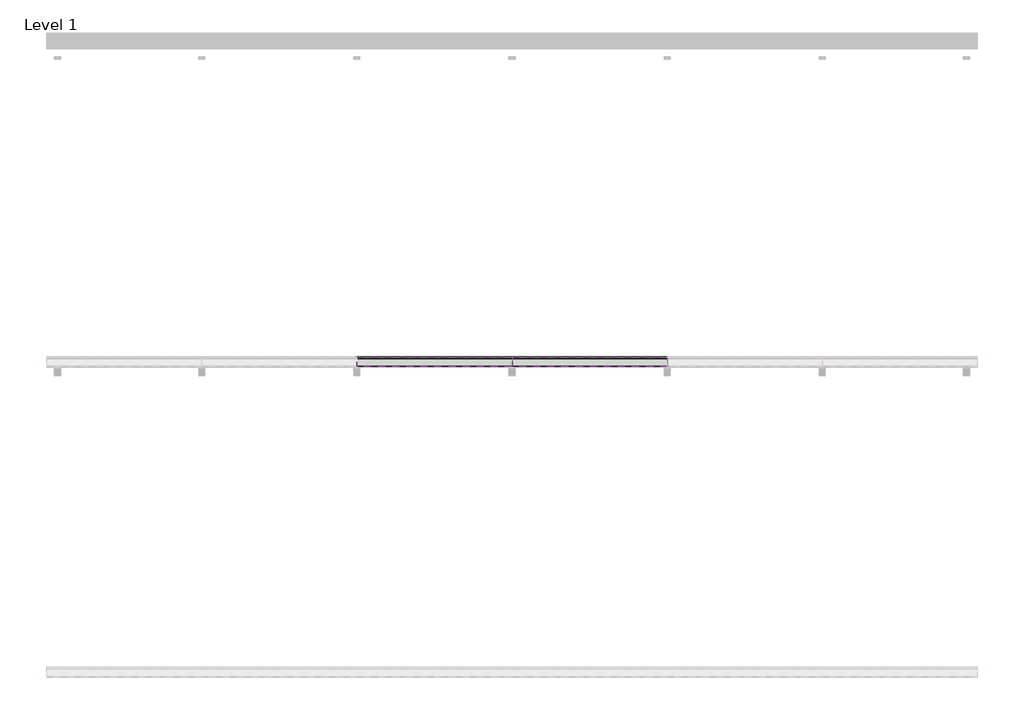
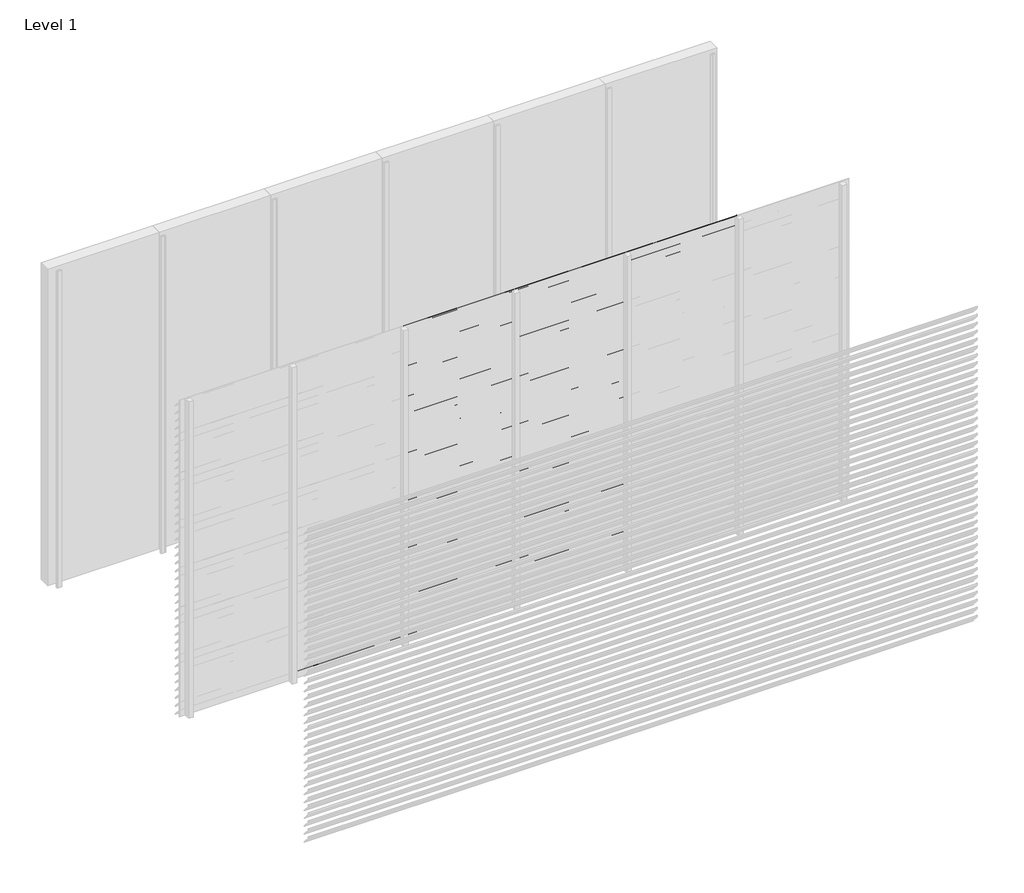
# One storey, part 18 of 35: 86 proxies.
"""IFC4 building model written with IfcOpenShell, lengths in millimetres."""

import ifcopenshell
import ifcopenshell.guid

model = None  # the IFC model being written
_history = None  # IfcOwnerHistory: only IFC2X3 demands one
_inside = {}  # id of a spatial element -> (the spatial element, [elements in it])
_under = {}  # id of a project, library or spatial element -> (it, [spatial elements below it])
_declared = {}  # id of a project -> (the project, [libraries it declares])
_typed = {}  # id of a type object -> (the type object, [elements of that type])
_made_of = {}  # id of a material, layer set ... -> (it, [elements and type objects made of it])


def new_model(schema):
    """Start an empty IFC model of exactly this schema.

    Asked for "IFC4X3", IfcOpenShell would pick the latest addendum, in which some entities
    have other attributes; the version numbers below select the first issue.
    IFC2X3 requires an IfcOwnerHistory on every rooted entity: one is made here for all.
    """
    global model, _history
    if schema == "IFC4X3":
        model = ifcopenshell.file(schema_version=(4, 3, 0, 0))
    else:
        model = ifcopenshell.file(schema=schema)
    _inside.clear()
    _under.clear()
    _declared.clear()
    _typed.clear()
    _made_of.clear()
    _history = None
    if model.schema == "IFC2X3":
        org = make("IfcOrganization", Name="unknown")
        user = make(
            "IfcPersonAndOrganization",
            ThePerson=make("IfcPerson", FamilyName="unknown"),
            TheOrganization=org,
        )
        app = make(
            "IfcApplication",
            ApplicationDeveloper=org,
            Version="unknown",
            ApplicationFullName="unknown",
            ApplicationIdentifier="unknown",
        )
        _history = make(
            "IfcOwnerHistory",
            OwningUser=user,
            OwningApplication=app,
            ChangeAction="ADDED",
            CreationDate=0,
        )
    return model


def make(cls, **values):
    """One entity of the class cls with the attributes given. An attribute that is None is left unset."""
    return model.create_entity(
        cls, **{name: value for name, value in values.items() if value is not None}
    )


def rooted(cls, **values):
    """An entity with a GlobalId (a new one), such as an element, a storey or a relation."""
    return make(cls, GlobalId=ifcopenshell.guid.new(), OwnerHistory=_history, **values)


def si_unit(unit_type, name, prefix=None):
    """IfcSIUnit, for example si_unit("LENGTHUNIT", "METRE", prefix="MILLI")."""
    return make("IfcSIUnit", UnitType=unit_type, Prefix=prefix, Name=name)


def assignment(units):
    """IfcUnitAssignment: the units of a project."""
    return None if units is None else make("IfcUnitAssignment", Units=units)


def point(xyz):
    """IfcCartesianPoint."""
    return None if xyz is None else make("IfcCartesianPoint", Coordinates=xyz)


def direction(xyz):
    """IfcDirection."""
    return None if xyz is None else make("IfcDirection", DirectionRatios=xyz)


def frame(location, z_axis=None, x_axis=None):
    """IfcAxis2Placement3D, a coordinate frame: its origin and axes. An axis left out is left unset."""
    return make(
        "IfcAxis2Placement3D",
        Location=point(location),
        Axis=direction(z_axis),
        RefDirection=direction(x_axis),
    )


def origin():
    """The frame at (0, 0, 0) with its axes left unset."""
    return frame((0.0, 0.0, 0.0))


def place(relative_to, where):
    """IfcLocalPlacement: puts the frame where relative to a parent placement (None: the world)."""
    return make(
        "IfcLocalPlacement", PlacementRelTo=relative_to, RelativePlacement=where
    )


def context(
    kind, dimensions, precision=None, world=None, true_north=None, identifier=None
):
    """IfcGeometricRepresentationContext, for example the 3D "Model" context."""
    return make(
        "IfcGeometricRepresentationContext",
        ContextIdentifier=identifier,
        ContextType=kind,
        CoordinateSpaceDimension=dimensions,
        Precision=precision,
        WorldCoordinateSystem=world,
        TrueNorth=true_north,
    )


def project(units=None, contexts=None):
    """IfcProject with its units and contexts."""
    return rooted(
        "IfcProject",
        Name="project",
        RepresentationContexts=contexts,
        UnitsInContext=assignment(units),
    )


def spatial(cls, under=None, at=None, **own):
    """A site, building, storey or space (cls), placed at a placement, below another one or the project."""
    s = rooted(cls, ObjectPlacement=at, **own)
    if under is not None:
        _under.setdefault(under.id(), (under, []))[1].append(s)
    return s


def polyline(points):
    """IfcPolyline through the points."""
    return make("IfcPolyline", Points=[point(p) for p in points])


def outline(outer, holes=None, kind="AREA"):
    """IfcArbitraryClosedProfileDef: a profile drawn as a closed curve; with holes, ...WithVoids."""
    if holes is None:
        return make("IfcArbitraryClosedProfileDef", ProfileType=kind, OuterCurve=outer)
    return make(
        "IfcArbitraryProfileDefWithVoids",
        ProfileType=kind,
        OuterCurve=outer,
        InnerCurves=holes,
    )


def extrude(swept, where, along, depth):
    """IfcExtrudedAreaSolid: the profile swept, set in the frame where, extruded along a direction by depth."""
    return make(
        "IfcExtrudedAreaSolid",
        SweptArea=swept,
        Position=where,
        ExtrudedDirection=direction(along),
        Depth=depth,
    )


def shape(context_of_items, identifier, shape_type, items):
    """IfcShapeRepresentation: the items that make up one representation, for example the "Body"."""
    return make(
        "IfcShapeRepresentation",
        ContextOfItems=context_of_items,
        RepresentationIdentifier=identifier,
        RepresentationType=shape_type,
        Items=items,
    )


def made_of(thing, what):
    """Note that an element or type object is made of a material, layer set ...; save() writes the relation."""
    if what is not None:
        _made_of.setdefault(what.id(), (what, []))[1].append(thing)
    return thing


def element(
    cls,
    number,
    at=None,
    inside=None,
    cuts=None,
    type_object=None,
    material=None,
    context=None,
    identifier="Body",
    shape_type=None,
    held_by="IfcProductDefinitionShape",
    body=None,
    shapes=None,
    **own,
):
    """One element of the class cls, such as IfcWall. Its Tag is "e" and its number.

    at: its placement. inside: the storey or other place that contains it. cuts: it is an
    opening in that element (IfcRelVoidsElement). A single representation is given by context,
    identifier, shape_type and body (its items); several are given by shapes. held_by: the class
    of the entity that holds the representations. save() writes the other relations.
    """
    e = rooted(cls, Tag="e%d" % number, ObjectPlacement=at, **own)
    if body is not None:
        shapes = [shape(context, identifier, shape_type, body)]
    if shapes is not None:
        e.Representation = make(held_by, Representations=shapes)
    if inside is not None:
        _inside.setdefault(inside.id(), (inside, []))[1].append(e)
    if cuts is not None:
        rooted(
            "IfcRelVoidsElement", RelatingBuildingElement=cuts, RelatedOpeningElement=e
        )
    if type_object is not None:
        _typed.setdefault(type_object.id(), (type_object, []))[1].append(e)
    return made_of(e, material)


def aggregate(whole, parts):
    """IfcRelAggregates: a whole, such as a stair, and the parts it consists of."""
    return rooted("IfcRelAggregates", RelatingObject=whole, RelatedObjects=parts)


def save(model, path):
    """Write the relations noted so far, then the file.

    IfcRelAggregates (storeys below a building ...), IfcRelContainedInSpatialStructure (elements
    in a storey), IfcRelDefinesByType, IfcRelAssociatesMaterial and IfcRelDeclares: one each for
    every whole, place, type object, material and project.
    """
    for whole, parts in _under.values():
        aggregate(whole, parts)
    for where, things in _inside.values():
        rooted(
            "IfcRelContainedInSpatialStructure",
            RelatedElements=things,
            RelatingStructure=where,
        )
    for kind, things in _typed.values():
        rooted("IfcRelDefinesByType", RelatedObjects=things, RelatingType=kind)
    for what, things in _made_of.values():
        rooted("IfcRelAssociatesMaterial", RelatedObjects=things, RelatingMaterial=what)
    for by, libraries in _declared.values():
        rooted("IfcRelDeclares", RelatingContext=by, RelatedDefinitions=libraries)
    model.write(path)


model = new_model("IFC4")

# Units and contexts
model_context = context("Model", 3, world=origin())
ifc_project = project(units=[si_unit("LENGTHUNIT", "METRE", prefix="MILLI")], contexts=[model_context])

# Site, building, storey
site = spatial("IfcSite", under=ifc_project)
building = spatial("IfcBuilding", under=site)
storey = spatial("IfcBuildingStorey", under=building, Name="Level 1", Elevation=0.0)

# Proxies
placement = place(None, origin())
element("IfcBuildingElementProxy", 1, Name="Wall Sweeps", at=placement, inside=storey, context=model_context, shape_type="SweptSolid", body=[
    extrude(outline(polyline([(-29996.5, 75.0), (-29996.5, 60.5463701), (-29934.5, -11.0669949), (-29934.5, -14.6), (-29936.0, -14.6), (-29936.0, -11.6261025), (-29998.0, 59.9872626), (-29998.0, 75.0), (-29996.5, 75.0)])), frame((1000.0, 0.0, 0.0), z_axis=(1.0, 0.0, 0.0), x_axis=(0.0, 1.0, 0.0)), (0.0, 0.0, 1.0), 1000.0),
])
element("IfcBuildingElementProxy", 2, Name="Wall Sweeps", at=placement, inside=storey, context=model_context, shape_type="SweptSolid", body=[
    extrude(outline(polyline([(-29996.5, 3000.0), (-29996.5, 2985.5463701), (-29934.5, 2913.9330051), (-29934.5, 2910.4), (-29936.0, 2910.4), (-29936.0, 2913.3738975), (-29998.0, 2984.9872626), (-29998.0, 3000.0), (-29996.5, 3000.0)])), frame((2000.0, 0.0, 0.0), z_axis=(1.0, 0.0, 0.0), x_axis=(0.0, 1.0, 0.0)), (0.0, 0.0, 1.0), 1000.0),
])
element("IfcBuildingElementProxy", 3, Name="Wall Sweeps", at=placement, inside=storey, context=model_context, shape_type="SweptSolid", body=[
    extrude(outline(polyline([(-29996.5, 2925.0), (-29996.5, 2910.5463701), (-29934.5, 2838.9330051), (-29934.5, 2835.4), (-29936.0, 2835.4), (-29936.0, 2838.3738975), (-29998.0, 2909.9872626), (-29998.0, 2925.0), (-29996.5, 2925.0)])), frame((2000.0, 0.0, 0.0), z_axis=(1.0, 0.0, 0.0), x_axis=(0.0, 1.0, 0.0)), (0.0, 0.0, 1.0), 1000.0),
])
element("IfcBuildingElementProxy", 4, Name="Wall Sweeps", at=placement, inside=storey, context=model_context, shape_type="SweptSolid", body=[
    extrude(outline(polyline([(-29996.5, 2850.0), (-29996.5, 2835.5463701), (-29934.5, 2763.9330051), (-29934.5, 2760.4), (-29936.0, 2760.4), (-29936.0, 2763.3738975), (-29998.0, 2834.9872626), (-29998.0, 2850.0), (-29996.5, 2850.0)])), frame((2000.0, 0.0, 0.0), z_axis=(1.0, 0.0, 0.0), x_axis=(0.0, 1.0, 0.0)), (0.0, 0.0, 1.0), 1000.0),
])
element("IfcBuildingElementProxy", 5, Name="Wall Sweeps", at=placement, inside=storey, context=model_context, shape_type="SweptSolid", body=[
    extrude(outline(polyline([(-29996.5, 2775.0), (-29996.5, 2760.5463701), (-29934.5, 2688.9330051), (-29934.5, 2685.4), (-29936.0, 2685.4), (-29936.0, 2688.3738975), (-29998.0, 2759.9872626), (-29998.0, 2775.0), (-29996.5, 2775.0)])), frame((2000.0, 0.0, 0.0), z_axis=(1.0, 0.0, 0.0), x_axis=(0.0, 1.0, 0.0)), (0.0, 0.0, 1.0), 1000.0),
])
element("IfcBuildingElementProxy", 6, Name="Wall Sweeps", at=placement, inside=storey, context=model_context, shape_type="SweptSolid", body=[
    extrude(outline(polyline([(-29996.5, 2700.0), (-29996.5, 2685.5463701), (-29934.5, 2613.9330051), (-29934.5, 2610.4), (-29936.0, 2610.4), (-29936.0, 2613.3738975), (-29998.0, 2684.9872626), (-29998.0, 2700.0), (-29996.5, 2700.0)])), frame((2000.0, 0.0, 0.0), z_axis=(1.0, 0.0, 0.0), x_axis=(0.0, 1.0, 0.0)), (0.0, 0.0, 1.0), 1000.0),
])
element("IfcBuildingElementProxy", 7, Name="Wall Sweeps", at=placement, inside=storey, context=model_context, shape_type="SweptSolid", body=[
    extrude(outline(polyline([(-29996.5, 2625.0), (-29996.5, 2610.5463701), (-29934.5, 2538.9330051), (-29934.5, 2535.4), (-29936.0, 2535.4), (-29936.0, 2538.3738975), (-29998.0, 2609.9872626), (-29998.0, 2625.0), (-29996.5, 2625.0)])), frame((2000.0, 0.0, 0.0), z_axis=(1.0, 0.0, 0.0), x_axis=(0.0, 1.0, 0.0)), (0.0, 0.0, 1.0), 1000.0),
])
element("IfcBuildingElementProxy", 8, Name="Wall Sweeps", at=placement, inside=storey, context=model_context, shape_type="SweptSolid", body=[
    extrude(outline(polyline([(-29996.5, 2550.0), (-29996.5, 2535.5463701), (-29934.5, 2463.9330051), (-29934.5, 2460.4), (-29936.0, 2460.4), (-29936.0, 2463.3738975), (-29998.0, 2534.9872626), (-29998.0, 2550.0), (-29996.5, 2550.0)])), frame((2000.0, 0.0, 0.0), z_axis=(1.0, 0.0, 0.0), x_axis=(0.0, 1.0, 0.0)), (0.0, 0.0, 1.0), 1000.0),
])
element("IfcBuildingElementProxy", 9, Name="Wall Sweeps", at=placement, inside=storey, context=model_context, shape_type="SweptSolid", body=[
    extrude(outline(polyline([(-29996.5, 2475.0), (-29996.5, 2460.5463701), (-29934.5, 2388.9330051), (-29934.5, 2385.4), (-29936.0, 2385.4), (-29936.0, 2388.3738975), (-29998.0, 2459.9872626), (-29998.0, 2475.0), (-29996.5, 2475.0)])), frame((2000.0, 0.0, 0.0), z_axis=(1.0, 0.0, 0.0), x_axis=(0.0, 1.0, 0.0)), (0.0, 0.0, 1.0), 1000.0),
])
element("IfcBuildingElementProxy", 10, Name="Wall Sweeps", at=placement, inside=storey, context=model_context, shape_type="SweptSolid", body=[
    extrude(outline(polyline([(-29996.5, 2400.0), (-29996.5, 2385.5463701), (-29934.5, 2313.9330051), (-29934.5, 2310.4), (-29936.0, 2310.4), (-29936.0, 2313.3738975), (-29998.0, 2384.9872626), (-29998.0, 2400.0), (-29996.5, 2400.0)])), frame((2000.0, 0.0, 0.0), z_axis=(1.0, 0.0, 0.0), x_axis=(0.0, 1.0, 0.0)), (0.0, 0.0, 1.0), 1000.0),
])
element("IfcBuildingElementProxy", 11, Name="Wall Sweeps", at=placement, inside=storey, context=model_context, shape_type="SweptSolid", body=[
    extrude(outline(polyline([(-29996.5, 2325.0), (-29996.5, 2310.5463701), (-29934.5, 2238.9330051), (-29934.5, 2235.4), (-29936.0, 2235.4), (-29936.0, 2238.3738975), (-29998.0, 2309.9872626), (-29998.0, 2325.0), (-29996.5, 2325.0)])), frame((2000.0, 0.0, 0.0), z_axis=(1.0, 0.0, 0.0), x_axis=(0.0, 1.0, 0.0)), (0.0, 0.0, 1.0), 1000.0),
])
element("IfcBuildingElementProxy", 12, Name="Wall Sweeps", at=placement, inside=storey, context=model_context, shape_type="SweptSolid", body=[
    extrude(outline(polyline([(-29996.5, 2250.0), (-29996.5, 2235.5463701), (-29934.5, 2163.9330051), (-29934.5, 2160.4), (-29936.0, 2160.4), (-29936.0, 2163.3738975), (-29998.0, 2234.9872626), (-29998.0, 2250.0), (-29996.5, 2250.0)])), frame((2000.0, 0.0, 0.0), z_axis=(1.0, 0.0, 0.0), x_axis=(0.0, 1.0, 0.0)), (0.0, 0.0, 1.0), 1000.0),
])
element("IfcBuildingElementProxy", 13, Name="Wall Sweeps", at=placement, inside=storey, context=model_context, shape_type="SweptSolid", body=[
    extrude(outline(polyline([(-29996.5, 2175.0), (-29996.5, 2160.5463701), (-29934.5, 2088.9330051), (-29934.5, 2085.4), (-29936.0, 2085.4), (-29936.0, 2088.3738975), (-29998.0, 2159.9872626), (-29998.0, 2175.0), (-29996.5, 2175.0)])), frame((2000.0, 0.0, 0.0), z_axis=(1.0, 0.0, 0.0), x_axis=(0.0, 1.0, 0.0)), (0.0, 0.0, 1.0), 1000.0),
])
element("IfcBuildingElementProxy", 14, Name="Wall Sweeps", at=placement, inside=storey, context=model_context, shape_type="SweptSolid", body=[
    extrude(outline(polyline([(-29996.5, 2100.0), (-29996.5, 2085.5463701), (-29934.5, 2013.9330051), (-29934.5, 2010.4), (-29936.0, 2010.4), (-29936.0, 2013.3738975), (-29998.0, 2084.9872626), (-29998.0, 2100.0), (-29996.5, 2100.0)])), frame((2000.0, 0.0, 0.0), z_axis=(1.0, 0.0, 0.0), x_axis=(0.0, 1.0, 0.0)), (0.0, 0.0, 1.0), 1000.0),
])
element("IfcBuildingElementProxy", 15, Name="Wall Sweeps", at=placement, inside=storey, context=model_context, shape_type="SweptSolid", body=[
    extrude(outline(polyline([(-29996.5, 2025.0), (-29996.5, 2010.5463701), (-29934.5, 1938.9330051), (-29934.5, 1935.4), (-29936.0, 1935.4), (-29936.0, 1938.3738975), (-29998.0, 2009.9872626), (-29998.0, 2025.0), (-29996.5, 2025.0)])), frame((2000.0, 0.0, 0.0), z_axis=(1.0, 0.0, 0.0), x_axis=(0.0, 1.0, 0.0)), (0.0, 0.0, 1.0), 1000.0),
])
element("IfcBuildingElementProxy", 16, Name="Wall Sweeps", at=placement, inside=storey, context=model_context, shape_type="SweptSolid", body=[
    extrude(outline(polyline([(-29996.5, 1950.0), (-29996.5, 1935.5463701), (-29934.5, 1863.9330051), (-29934.5, 1860.4), (-29936.0, 1860.4), (-29936.0, 1863.3738975), (-29998.0, 1934.9872626), (-29998.0, 1950.0), (-29996.5, 1950.0)])), frame((2000.0, 0.0, 0.0), z_axis=(1.0, 0.0, 0.0), x_axis=(0.0, 1.0, 0.0)), (0.0, 0.0, 1.0), 1000.0),
])
element("IfcBuildingElementProxy", 17, Name="Wall Sweeps", at=placement, inside=storey, context=model_context, shape_type="SweptSolid", body=[
    extrude(outline(polyline([(-29996.5, 1875.0), (-29996.5, 1860.5463701), (-29934.5, 1788.9330051), (-29934.5, 1785.4), (-29936.0, 1785.4), (-29936.0, 1788.3738975), (-29998.0, 1859.9872626), (-29998.0, 1875.0), (-29996.5, 1875.0)])), frame((2000.0, 0.0, 0.0), z_axis=(1.0, 0.0, 0.0), x_axis=(0.0, 1.0, 0.0)), (0.0, 0.0, 1.0), 1000.0),
])
element("IfcBuildingElementProxy", 18, Name="Wall Sweeps", at=placement, inside=storey, context=model_context, shape_type="SweptSolid", body=[
    extrude(outline(polyline([(-29996.5, 1800.0), (-29996.5, 1785.5463701), (-29934.5, 1713.9330051), (-29934.5, 1710.4), (-29936.0, 1710.4), (-29936.0, 1713.3738975), (-29998.0, 1784.9872626), (-29998.0, 1800.0), (-29996.5, 1800.0)])), frame((2000.0, 0.0, 0.0), z_axis=(1.0, 0.0, 0.0), x_axis=(0.0, 1.0, 0.0)), (0.0, 0.0, 1.0), 1000.0),
])
element("IfcBuildingElementProxy", 19, Name="Wall Sweeps", at=placement, inside=storey, context=model_context, shape_type="SweptSolid", body=[
    extrude(outline(polyline([(-29996.5, 1725.0), (-29996.5, 1710.5463701), (-29934.5, 1638.9330051), (-29934.5, 1635.4), (-29936.0, 1635.4), (-29936.0, 1638.3738975), (-29998.0, 1709.9872626), (-29998.0, 1725.0), (-29996.5, 1725.0)])), frame((2000.0, 0.0, 0.0), z_axis=(1.0, 0.0, 0.0), x_axis=(0.0, 1.0, 0.0)), (0.0, 0.0, 1.0), 1000.0),
])
element("IfcBuildingElementProxy", 20, Name="Wall Sweeps", at=placement, inside=storey, context=model_context, shape_type="SweptSolid", body=[
    extrude(outline(polyline([(-29996.5, 1650.0), (-29996.5, 1635.5463701), (-29934.5, 1563.9330051), (-29934.5, 1560.4), (-29936.0, 1560.4), (-29936.0, 1563.3738975), (-29998.0, 1634.9872626), (-29998.0, 1650.0), (-29996.5, 1650.0)])), frame((2000.0, 0.0, 0.0), z_axis=(1.0, 0.0, 0.0), x_axis=(0.0, 1.0, 0.0)), (0.0, 0.0, 1.0), 1000.0),
])
element("IfcBuildingElementProxy", 21, Name="Wall Sweeps", at=placement, inside=storey, context=model_context, shape_type="SweptSolid", body=[
    extrude(outline(polyline([(-29996.5, 1575.0), (-29996.5, 1560.5463701), (-29934.5, 1488.9330051), (-29934.5, 1485.4), (-29936.0, 1485.4), (-29936.0, 1488.3738975), (-29998.0, 1559.9872626), (-29998.0, 1575.0), (-29996.5, 1575.0)])), frame((2000.0, 0.0, 0.0), z_axis=(1.0, 0.0, 0.0), x_axis=(0.0, 1.0, 0.0)), (0.0, 0.0, 1.0), 1000.0),
])
element("IfcBuildingElementProxy", 22, Name="Wall Sweeps", at=placement, inside=storey, context=model_context, shape_type="SweptSolid", body=[
    extrude(outline(polyline([(-29996.5, 1500.0), (-29996.5, 1485.5463701), (-29934.5, 1413.9330051), (-29934.5, 1410.4), (-29936.0, 1410.4), (-29936.0, 1413.3738975), (-29998.0, 1484.9872626), (-29998.0, 1500.0), (-29996.5, 1500.0)])), frame((2000.0, 0.0, 0.0), z_axis=(1.0, 0.0, 0.0), x_axis=(0.0, 1.0, 0.0)), (0.0, 0.0, 1.0), 1000.0),
])
element("IfcBuildingElementProxy", 23, Name="Wall Sweeps", at=placement, inside=storey, context=model_context, shape_type="SweptSolid", body=[
    extrude(outline(polyline([(-29996.5, 1425.0), (-29996.5, 1410.5463701), (-29934.5, 1338.9330051), (-29934.5, 1335.4), (-29936.0, 1335.4), (-29936.0, 1338.3738975), (-29998.0, 1409.9872626), (-29998.0, 1425.0), (-29996.5, 1425.0)])), frame((2000.0, 0.0, 0.0), z_axis=(1.0, 0.0, 0.0), x_axis=(0.0, 1.0, 0.0)), (0.0, 0.0, 1.0), 1000.0),
])
element("IfcBuildingElementProxy", 24, Name="Wall Sweeps", at=placement, inside=storey, context=model_context, shape_type="SweptSolid", body=[
    extrude(outline(polyline([(-29996.5, 1350.0), (-29996.5, 1335.5463701), (-29934.5, 1263.9330051), (-29934.5, 1260.4), (-29936.0, 1260.4), (-29936.0, 1263.3738975), (-29998.0, 1334.9872626), (-29998.0, 1350.0), (-29996.5, 1350.0)])), frame((2000.0, 0.0, 0.0), z_axis=(1.0, 0.0, 0.0), x_axis=(0.0, 1.0, 0.0)), (0.0, 0.0, 1.0), 1000.0),
])
element("IfcBuildingElementProxy", 25, Name="Wall Sweeps", at=placement, inside=storey, context=model_context, shape_type="SweptSolid", body=[
    extrude(outline(polyline([(-29996.5, 1275.0), (-29996.5, 1260.5463701), (-29934.5, 1188.9330051), (-29934.5, 1185.4), (-29936.0, 1185.4), (-29936.0, 1188.3738975), (-29998.0, 1259.9872626), (-29998.0, 1275.0), (-29996.5, 1275.0)])), frame((2000.0, 0.0, 0.0), z_axis=(1.0, 0.0, 0.0), x_axis=(0.0, 1.0, 0.0)), (0.0, 0.0, 1.0), 1000.0),
])
element("IfcBuildingElementProxy", 26, Name="Wall Sweeps", at=placement, inside=storey, context=model_context, shape_type="SweptSolid", body=[
    extrude(outline(polyline([(-29996.5, 1200.0), (-29996.5, 1185.5463701), (-29934.5, 1113.9330051), (-29934.5, 1110.4), (-29936.0, 1110.4), (-29936.0, 1113.3738975), (-29998.0, 1184.9872626), (-29998.0, 1200.0), (-29996.5, 1200.0)])), frame((2000.0, 0.0, 0.0), z_axis=(1.0, 0.0, 0.0), x_axis=(0.0, 1.0, 0.0)), (0.0, 0.0, 1.0), 1000.0),
])
element("IfcBuildingElementProxy", 27, Name="Wall Sweeps", at=placement, inside=storey, context=model_context, shape_type="SweptSolid", body=[
    extrude(outline(polyline([(-29996.5, 1125.0), (-29996.5, 1110.5463701), (-29934.5, 1038.9330051), (-29934.5, 1035.4), (-29936.0, 1035.4), (-29936.0, 1038.3738975), (-29998.0, 1109.9872626), (-29998.0, 1125.0), (-29996.5, 1125.0)])), frame((2000.0, 0.0, 0.0), z_axis=(1.0, 0.0, 0.0), x_axis=(0.0, 1.0, 0.0)), (0.0, 0.0, 1.0), 1000.0),
])
element("IfcBuildingElementProxy", 28, Name="Wall Sweeps", at=placement, inside=storey, context=model_context, shape_type="SweptSolid", body=[
    extrude(outline(polyline([(-29996.5, 1050.0), (-29996.5, 1035.5463701), (-29934.5, 963.9330051), (-29934.5, 960.4), (-29936.0, 960.4), (-29936.0, 963.3738975), (-29998.0, 1034.9872626), (-29998.0, 1050.0), (-29996.5, 1050.0)])), frame((2000.0, 0.0, 0.0), z_axis=(1.0, 0.0, 0.0), x_axis=(0.0, 1.0, 0.0)), (0.0, 0.0, 1.0), 1000.0),
])
element("IfcBuildingElementProxy", 29, Name="Wall Sweeps", at=placement, inside=storey, context=model_context, shape_type="SweptSolid", body=[
    extrude(outline(polyline([(-29996.5, 975.0), (-29996.5, 960.5463701), (-29934.5, 888.9330051), (-29934.5, 885.4), (-29936.0, 885.4), (-29936.0, 888.3738975), (-29998.0, 959.9872626), (-29998.0, 975.0), (-29996.5, 975.0)])), frame((2000.0, 0.0, 0.0), z_axis=(1.0, 0.0, 0.0), x_axis=(0.0, 1.0, 0.0)), (0.0, 0.0, 1.0), 1000.0),
])
element("IfcBuildingElementProxy", 30, Name="Wall Sweeps", at=placement, inside=storey, context=model_context, shape_type="SweptSolid", body=[
    extrude(outline(polyline([(-29996.5, 900.0), (-29996.5, 885.5463701), (-29934.5, 813.9330051), (-29934.5, 810.4), (-29936.0, 810.4), (-29936.0, 813.3738975), (-29998.0, 884.9872626), (-29998.0, 900.0), (-29996.5, 900.0)])), frame((2000.0, 0.0, 0.0), z_axis=(1.0, 0.0, 0.0), x_axis=(0.0, 1.0, 0.0)), (0.0, 0.0, 1.0), 1000.0),
])
element("IfcBuildingElementProxy", 31, Name="Wall Sweeps", at=placement, inside=storey, context=model_context, shape_type="SweptSolid", body=[
    extrude(outline(polyline([(-29996.5, 825.0), (-29996.5, 810.5463701), (-29934.5, 738.9330051), (-29934.5, 735.4), (-29936.0, 735.4), (-29936.0, 738.3738975), (-29998.0, 809.9872626), (-29998.0, 825.0), (-29996.5, 825.0)])), frame((2000.0, 0.0, 0.0), z_axis=(1.0, 0.0, 0.0), x_axis=(0.0, 1.0, 0.0)), (0.0, 0.0, 1.0), 1000.0),
])
element("IfcBuildingElementProxy", 32, Name="Wall Sweeps", at=placement, inside=storey, context=model_context, shape_type="SweptSolid", body=[
    extrude(outline(polyline([(-29996.5, 750.0), (-29996.5, 735.5463701), (-29934.5, 663.9330051), (-29934.5, 660.4), (-29936.0, 660.4), (-29936.0, 663.3738975), (-29998.0, 734.9872626), (-29998.0, 750.0), (-29996.5, 750.0)])), frame((2000.0, 0.0, 0.0), z_axis=(1.0, 0.0, 0.0), x_axis=(0.0, 1.0, 0.0)), (0.0, 0.0, 1.0), 1000.0),
])
element("IfcBuildingElementProxy", 33, Name="Wall Sweeps", at=placement, inside=storey, context=model_context, shape_type="SweptSolid", body=[
    extrude(outline(polyline([(-29996.5, 675.0), (-29996.5, 660.5463701), (-29934.5, 588.9330051), (-29934.5, 585.4), (-29936.0, 585.4), (-29936.0, 588.3738975), (-29998.0, 659.9872626), (-29998.0, 675.0), (-29996.5, 675.0)])), frame((2000.0, 0.0, 0.0), z_axis=(1.0, 0.0, 0.0), x_axis=(0.0, 1.0, 0.0)), (0.0, 0.0, 1.0), 1000.0),
])
element("IfcBuildingElementProxy", 34, Name="Wall Sweeps", at=placement, inside=storey, context=model_context, shape_type="SweptSolid", body=[
    extrude(outline(polyline([(-29996.5, 600.0), (-29996.5, 585.5463701), (-29934.5, 513.9330051), (-29934.5, 510.4), (-29936.0, 510.4), (-29936.0, 513.3738975), (-29998.0, 584.9872626), (-29998.0, 600.0), (-29996.5, 600.0)])), frame((2000.0, 0.0, 0.0), z_axis=(1.0, 0.0, 0.0), x_axis=(0.0, 1.0, 0.0)), (0.0, 0.0, 1.0), 1000.0),
])
element("IfcBuildingElementProxy", 35, Name="Wall Sweeps", at=placement, inside=storey, context=model_context, shape_type="SweptSolid", body=[
    extrude(outline(polyline([(-29996.5, 525.0), (-29996.5, 510.5463701), (-29934.5, 438.9330051), (-29934.5, 435.4), (-29936.0, 435.4), (-29936.0, 438.3738975), (-29998.0, 509.9872626), (-29998.0, 525.0), (-29996.5, 525.0)])), frame((2000.0, 0.0, 0.0), z_axis=(1.0, 0.0, 0.0), x_axis=(0.0, 1.0, 0.0)), (0.0, 0.0, 1.0), 1000.0),
])
element("IfcBuildingElementProxy", 36, Name="Wall Sweeps", at=placement, inside=storey, context=model_context, shape_type="SweptSolid", body=[
    extrude(outline(polyline([(-29996.5, 450.0), (-29996.5, 435.5463701), (-29934.5, 363.9330051), (-29934.5, 360.4), (-29936.0, 360.4), (-29936.0, 363.3738975), (-29998.0, 434.9872626), (-29998.0, 450.0), (-29996.5, 450.0)])), frame((2000.0, 0.0, 0.0), z_axis=(1.0, 0.0, 0.0), x_axis=(0.0, 1.0, 0.0)), (0.0, 0.0, 1.0), 1000.0),
])
element("IfcBuildingElementProxy", 37, Name="Wall Sweeps", at=placement, inside=storey, context=model_context, shape_type="SweptSolid", body=[
    extrude(outline(polyline([(-29996.5, 375.0), (-29996.5, 360.5463701), (-29934.5, 288.9330051), (-29934.5, 285.4), (-29936.0, 285.4), (-29936.0, 288.3738975), (-29998.0, 359.9872626), (-29998.0, 375.0), (-29996.5, 375.0)])), frame((2000.0, 0.0, 0.0), z_axis=(1.0, 0.0, 0.0), x_axis=(0.0, 1.0, 0.0)), (0.0, 0.0, 1.0), 1000.0),
])
element("IfcBuildingElementProxy", 38, Name="Wall Sweeps", at=placement, inside=storey, context=model_context, shape_type="SweptSolid", body=[
    extrude(outline(polyline([(-29996.5, 300.0), (-29996.5, 285.5463701), (-29934.5, 213.9330051), (-29934.5, 210.4), (-29936.0, 210.4), (-29936.0, 213.3738975), (-29998.0, 284.9872626), (-29998.0, 300.0), (-29996.5, 300.0)])), frame((2000.0, 0.0, 0.0), z_axis=(1.0, 0.0, 0.0), x_axis=(0.0, 1.0, 0.0)), (0.0, 0.0, 1.0), 1000.0),
])
element("IfcBuildingElementProxy", 39, Name="Wall Sweeps", at=placement, inside=storey, context=model_context, shape_type="SweptSolid", body=[
    extrude(outline(polyline([(-29996.5, 225.0), (-29996.5, 210.5463701), (-29934.5, 138.9330051), (-29934.5, 135.4), (-29936.0, 135.4), (-29936.0, 138.3738975), (-29998.0, 209.9872626), (-29998.0, 225.0), (-29996.5, 225.0)])), frame((2000.0, 0.0, 0.0), z_axis=(1.0, 0.0, 0.0), x_axis=(0.0, 1.0, 0.0)), (0.0, 0.0, 1.0), 1000.0),
])
element("IfcBuildingElementProxy", 40, Name="Wall Sweeps", at=placement, inside=storey, context=model_context, shape_type="SweptSolid", body=[
    extrude(outline(polyline([(-29996.5, 150.0), (-29996.5, 135.5463701), (-29934.5, 63.9330051), (-29934.5, 60.4), (-29936.0, 60.4), (-29936.0, 63.3738975), (-29998.0, 134.9872626), (-29998.0, 150.0), (-29996.5, 150.0)])), frame((2000.0, 0.0, 0.0), z_axis=(1.0, 0.0, 0.0), x_axis=(0.0, 1.0, 0.0)), (0.0, 0.0, 1.0), 1000.0),
])
element("IfcBuildingElementProxy", 41, Name="Wall Sweeps", at=placement, inside=storey, context=model_context, shape_type="SweptSolid", body=[
    extrude(outline(polyline([(-29996.5, 75.0), (-29996.5, 60.5463701), (-29934.5, -11.0669949), (-29934.5, -14.6), (-29936.0, -14.6), (-29936.0, -11.6261025), (-29998.0, 59.9872626), (-29998.0, 75.0), (-29996.5, 75.0)])), frame((2000.0, 0.0, 0.0), z_axis=(1.0, 0.0, 0.0), x_axis=(0.0, 1.0, 0.0)), (0.0, 0.0, 1.0), 1000.0),
])
element("IfcBuildingElementProxy", 42, Name="Wall Sweeps", at=placement, inside=storey, context=model_context, shape_type="SweptSolid", body=[
    extrude(outline(polyline([(-29996.5, 3000.0), (-29996.5, 2985.5463701), (-29934.5, 2913.9330051), (-29934.5, 2910.4), (-29936.0, 2910.4), (-29936.0, 2913.3738975), (-29998.0, 2984.9872626), (-29998.0, 3000.0), (-29996.5, 3000.0)])), frame((3000.0, 0.0, 0.0), z_axis=(1.0, 0.0, 0.0), x_axis=(0.0, 1.0, 0.0)), (0.0, 0.0, 1.0), 1000.0),
])
element("IfcBuildingElementProxy", 43, Name="Wall Sweeps", at=placement, inside=storey, context=model_context, shape_type="SweptSolid", body=[
    extrude(outline(polyline([(-29996.5, 2925.0), (-29996.5, 2910.5463701), (-29934.5, 2838.9330051), (-29934.5, 2835.4), (-29936.0, 2835.4), (-29936.0, 2838.3738975), (-29998.0, 2909.9872626), (-29998.0, 2925.0), (-29996.5, 2925.0)])), frame((3000.0, 0.0, 0.0), z_axis=(1.0, 0.0, 0.0), x_axis=(0.0, 1.0, 0.0)), (0.0, 0.0, 1.0), 1000.0),
])
element("IfcBuildingElementProxy", 44, Name="Wall Sweeps", at=placement, inside=storey, context=model_context, shape_type="SweptSolid", body=[
    extrude(outline(polyline([(-29996.5, 2850.0), (-29996.5, 2835.5463701), (-29934.5, 2763.9330051), (-29934.5, 2760.4), (-29936.0, 2760.4), (-29936.0, 2763.3738975), (-29998.0, 2834.9872626), (-29998.0, 2850.0), (-29996.5, 2850.0)])), frame((3000.0, 0.0, 0.0), z_axis=(1.0, 0.0, 0.0), x_axis=(0.0, 1.0, 0.0)), (0.0, 0.0, 1.0), 1000.0),
])
element("IfcBuildingElementProxy", 45, Name="Wall Sweeps", at=placement, inside=storey, context=model_context, shape_type="SweptSolid", body=[
    extrude(outline(polyline([(-29996.5, 2775.0), (-29996.5, 2760.5463701), (-29934.5, 2688.9330051), (-29934.5, 2685.4), (-29936.0, 2685.4), (-29936.0, 2688.3738975), (-29998.0, 2759.9872626), (-29998.0, 2775.0), (-29996.5, 2775.0)])), frame((3000.0, 0.0, 0.0), z_axis=(1.0, 0.0, 0.0), x_axis=(0.0, 1.0, 0.0)), (0.0, 0.0, 1.0), 1000.0),
])
element("IfcBuildingElementProxy", 46, Name="Wall Sweeps", at=placement, inside=storey, context=model_context, shape_type="SweptSolid", body=[
    extrude(outline(polyline([(-29996.5, 2700.0), (-29996.5, 2685.5463701), (-29934.5, 2613.9330051), (-29934.5, 2610.4), (-29936.0, 2610.4), (-29936.0, 2613.3738975), (-29998.0, 2684.9872626), (-29998.0, 2700.0), (-29996.5, 2700.0)])), frame((3000.0, 0.0, 0.0), z_axis=(1.0, 0.0, 0.0), x_axis=(0.0, 1.0, 0.0)), (0.0, 0.0, 1.0), 1000.0),
])
element("IfcBuildingElementProxy", 47, Name="Wall Sweeps", at=placement, inside=storey, context=model_context, shape_type="SweptSolid", body=[
    extrude(outline(polyline([(-29996.5, 2625.0), (-29996.5, 2610.5463701), (-29934.5, 2538.9330051), (-29934.5, 2535.4), (-29936.0, 2535.4), (-29936.0, 2538.3738975), (-29998.0, 2609.9872626), (-29998.0, 2625.0), (-29996.5, 2625.0)])), frame((3000.0, 0.0, 0.0), z_axis=(1.0, 0.0, 0.0), x_axis=(0.0, 1.0, 0.0)), (0.0, 0.0, 1.0), 1000.0),
])
element("IfcBuildingElementProxy", 48, Name="Wall Sweeps", at=placement, inside=storey, context=model_context, shape_type="SweptSolid", body=[
    extrude(outline(polyline([(-29996.5, 2550.0), (-29996.5, 2535.5463701), (-29934.5, 2463.9330051), (-29934.5, 2460.4), (-29936.0, 2460.4), (-29936.0, 2463.3738975), (-29998.0, 2534.9872626), (-29998.0, 2550.0), (-29996.5, 2550.0)])), frame((3000.0, 0.0, 0.0), z_axis=(1.0, 0.0, 0.0), x_axis=(0.0, 1.0, 0.0)), (0.0, 0.0, 1.0), 1000.0),
])
element("IfcBuildingElementProxy", 49, Name="Wall Sweeps", at=placement, inside=storey, context=model_context, shape_type="SweptSolid", body=[
    extrude(outline(polyline([(-29996.5, 2475.0), (-29996.5, 2460.5463701), (-29934.5, 2388.9330051), (-29934.5, 2385.4), (-29936.0, 2385.4), (-29936.0, 2388.3738975), (-29998.0, 2459.9872626), (-29998.0, 2475.0), (-29996.5, 2475.0)])), frame((3000.0, 0.0, 0.0), z_axis=(1.0, 0.0, 0.0), x_axis=(0.0, 1.0, 0.0)), (0.0, 0.0, 1.0), 1000.0),
])
element("IfcBuildingElementProxy", 50, Name="Wall Sweeps", at=placement, inside=storey, context=model_context, shape_type="SweptSolid", body=[
    extrude(outline(polyline([(-29996.5, 2400.0), (-29996.5, 2385.5463701), (-29934.5, 2313.9330051), (-29934.5, 2310.4), (-29936.0, 2310.4), (-29936.0, 2313.3738975), (-29998.0, 2384.9872626), (-29998.0, 2400.0), (-29996.5, 2400.0)])), frame((3000.0, 0.0, 0.0), z_axis=(1.0, 0.0, 0.0), x_axis=(0.0, 1.0, 0.0)), (0.0, 0.0, 1.0), 1000.0),
])
element("IfcBuildingElementProxy", 51, Name="Wall Sweeps", at=placement, inside=storey, context=model_context, shape_type="SweptSolid", body=[
    extrude(outline(polyline([(-29996.5, 2325.0), (-29996.5, 2310.5463701), (-29934.5, 2238.9330051), (-29934.5, 2235.4), (-29936.0, 2235.4), (-29936.0, 2238.3738975), (-29998.0, 2309.9872626), (-29998.0, 2325.0), (-29996.5, 2325.0)])), frame((3000.0, 0.0, 0.0), z_axis=(1.0, 0.0, 0.0), x_axis=(0.0, 1.0, 0.0)), (0.0, 0.0, 1.0), 1000.0),
])
element("IfcBuildingElementProxy", 52, Name="Wall Sweeps", at=placement, inside=storey, context=model_context, shape_type="SweptSolid", body=[
    extrude(outline(polyline([(-29996.5, 2250.0), (-29996.5, 2235.5463701), (-29934.5, 2163.9330051), (-29934.5, 2160.4), (-29936.0, 2160.4), (-29936.0, 2163.3738975), (-29998.0, 2234.9872626), (-29998.0, 2250.0), (-29996.5, 2250.0)])), frame((3000.0, 0.0, 0.0), z_axis=(1.0, 0.0, 0.0), x_axis=(0.0, 1.0, 0.0)), (0.0, 0.0, 1.0), 1000.0),
])
element("IfcBuildingElementProxy", 53, Name="Wall Sweeps", at=placement, inside=storey, context=model_context, shape_type="SweptSolid", body=[
    extrude(outline(polyline([(-29996.5, 2175.0), (-29996.5, 2160.5463701), (-29934.5, 2088.9330051), (-29934.5, 2085.4), (-29936.0, 2085.4), (-29936.0, 2088.3738975), (-29998.0, 2159.9872626), (-29998.0, 2175.0), (-29996.5, 2175.0)])), frame((3000.0, 0.0, 0.0), z_axis=(1.0, 0.0, 0.0), x_axis=(0.0, 1.0, 0.0)), (0.0, 0.0, 1.0), 1000.0),
])
element("IfcBuildingElementProxy", 54, Name="Wall Sweeps", at=placement, inside=storey, context=model_context, shape_type="SweptSolid", body=[
    extrude(outline(polyline([(-29996.5, 2100.0), (-29996.5, 2085.5463701), (-29934.5, 2013.9330051), (-29934.5, 2010.4), (-29936.0, 2010.4), (-29936.0, 2013.3738975), (-29998.0, 2084.9872626), (-29998.0, 2100.0), (-29996.5, 2100.0)])), frame((3000.0, 0.0, 0.0), z_axis=(1.0, 0.0, 0.0), x_axis=(0.0, 1.0, 0.0)), (0.0, 0.0, 1.0), 1000.0),
])
element("IfcBuildingElementProxy", 55, Name="Wall Sweeps", at=placement, inside=storey, context=model_context, shape_type="SweptSolid", body=[
    extrude(outline(polyline([(-29996.5, 2025.0), (-29996.5, 2010.5463701), (-29934.5, 1938.9330051), (-29934.5, 1935.4), (-29936.0, 1935.4), (-29936.0, 1938.3738975), (-29998.0, 2009.9872626), (-29998.0, 2025.0), (-29996.5, 2025.0)])), frame((3000.0, 0.0, 0.0), z_axis=(1.0, 0.0, 0.0), x_axis=(0.0, 1.0, 0.0)), (0.0, 0.0, 1.0), 1000.0),
])
element("IfcBuildingElementProxy", 56, Name="Wall Sweeps", at=placement, inside=storey, context=model_context, shape_type="SweptSolid", body=[
    extrude(outline(polyline([(-29996.5, 1950.0), (-29996.5, 1935.5463701), (-29934.5, 1863.9330051), (-29934.5, 1860.4), (-29936.0, 1860.4), (-29936.0, 1863.3738975), (-29998.0, 1934.9872626), (-29998.0, 1950.0), (-29996.5, 1950.0)])), frame((3000.0, 0.0, 0.0), z_axis=(1.0, 0.0, 0.0), x_axis=(0.0, 1.0, 0.0)), (0.0, 0.0, 1.0), 1000.0),
])
element("IfcBuildingElementProxy", 57, Name="Wall Sweeps", at=placement, inside=storey, context=model_context, shape_type="SweptSolid", body=[
    extrude(outline(polyline([(-29996.5, 1875.0), (-29996.5, 1860.5463701), (-29934.5, 1788.9330051), (-29934.5, 1785.4), (-29936.0, 1785.4), (-29936.0, 1788.3738975), (-29998.0, 1859.9872626), (-29998.0, 1875.0), (-29996.5, 1875.0)])), frame((3000.0, 0.0, 0.0), z_axis=(1.0, 0.0, 0.0), x_axis=(0.0, 1.0, 0.0)), (0.0, 0.0, 1.0), 1000.0),
])
element("IfcBuildingElementProxy", 58, Name="Wall Sweeps", at=placement, inside=storey, context=model_context, shape_type="SweptSolid", body=[
    extrude(outline(polyline([(-29996.5, 1800.0), (-29996.5, 1785.5463701), (-29934.5, 1713.9330051), (-29934.5, 1710.4), (-29936.0, 1710.4), (-29936.0, 1713.3738975), (-29998.0, 1784.9872626), (-29998.0, 1800.0), (-29996.5, 1800.0)])), frame((3000.0, 0.0, 0.0), z_axis=(1.0, 0.0, 0.0), x_axis=(0.0, 1.0, 0.0)), (0.0, 0.0, 1.0), 1000.0),
])
element("IfcBuildingElementProxy", 59, Name="Wall Sweeps", at=placement, inside=storey, context=model_context, shape_type="SweptSolid", body=[
    extrude(outline(polyline([(-29996.5, 1725.0), (-29996.5, 1710.5463701), (-29934.5, 1638.9330051), (-29934.5, 1635.4), (-29936.0, 1635.4), (-29936.0, 1638.3738975), (-29998.0, 1709.9872626), (-29998.0, 1725.0), (-29996.5, 1725.0)])), frame((3000.0, 0.0, 0.0), z_axis=(1.0, 0.0, 0.0), x_axis=(0.0, 1.0, 0.0)), (0.0, 0.0, 1.0), 1000.0),
])
element("IfcBuildingElementProxy", 60, Name="Wall Sweeps", at=placement, inside=storey, context=model_context, shape_type="SweptSolid", body=[
    extrude(outline(polyline([(-29996.5, 1650.0), (-29996.5, 1635.5463701), (-29934.5, 1563.9330051), (-29934.5, 1560.4), (-29936.0, 1560.4), (-29936.0, 1563.3738975), (-29998.0, 1634.9872626), (-29998.0, 1650.0), (-29996.5, 1650.0)])), frame((3000.0, 0.0, 0.0), z_axis=(1.0, 0.0, 0.0), x_axis=(0.0, 1.0, 0.0)), (0.0, 0.0, 1.0), 1000.0),
])
element("IfcBuildingElementProxy", 61, Name="Wall Sweeps", at=placement, inside=storey, context=model_context, shape_type="SweptSolid", body=[
    extrude(outline(polyline([(-29996.5, 1575.0), (-29996.5, 1560.5463701), (-29934.5, 1488.9330051), (-29934.5, 1485.4), (-29936.0, 1485.4), (-29936.0, 1488.3738975), (-29998.0, 1559.9872626), (-29998.0, 1575.0), (-29996.5, 1575.0)])), frame((3000.0, 0.0, 0.0), z_axis=(1.0, 0.0, 0.0), x_axis=(0.0, 1.0, 0.0)), (0.0, 0.0, 1.0), 1000.0),
])
element("IfcBuildingElementProxy", 62, Name="Wall Sweeps", at=placement, inside=storey, context=model_context, shape_type="SweptSolid", body=[
    extrude(outline(polyline([(-29996.5, 1500.0), (-29996.5, 1485.5463701), (-29934.5, 1413.9330051), (-29934.5, 1410.4), (-29936.0, 1410.4), (-29936.0, 1413.3738975), (-29998.0, 1484.9872626), (-29998.0, 1500.0), (-29996.5, 1500.0)])), frame((3000.0, 0.0, 0.0), z_axis=(1.0, 0.0, 0.0), x_axis=(0.0, 1.0, 0.0)), (0.0, 0.0, 1.0), 1000.0),
])
element("IfcBuildingElementProxy", 63, Name="Wall Sweeps", at=placement, inside=storey, context=model_context, shape_type="SweptSolid", body=[
    extrude(outline(polyline([(-29996.5, 1425.0), (-29996.5, 1410.5463701), (-29934.5, 1338.9330051), (-29934.5, 1335.4), (-29936.0, 1335.4), (-29936.0, 1338.3738975), (-29998.0, 1409.9872626), (-29998.0, 1425.0), (-29996.5, 1425.0)])), frame((3000.0, 0.0, 0.0), z_axis=(1.0, 0.0, 0.0), x_axis=(0.0, 1.0, 0.0)), (0.0, 0.0, 1.0), 1000.0),
])
element("IfcBuildingElementProxy", 64, Name="Wall Sweeps", at=placement, inside=storey, context=model_context, shape_type="SweptSolid", body=[
    extrude(outline(polyline([(-29996.5, 1350.0), (-29996.5, 1335.5463701), (-29934.5, 1263.9330051), (-29934.5, 1260.4), (-29936.0, 1260.4), (-29936.0, 1263.3738975), (-29998.0, 1334.9872626), (-29998.0, 1350.0), (-29996.5, 1350.0)])), frame((3000.0, 0.0, 0.0), z_axis=(1.0, 0.0, 0.0), x_axis=(0.0, 1.0, 0.0)), (0.0, 0.0, 1.0), 1000.0),
])
element("IfcBuildingElementProxy", 65, Name="Wall Sweeps", at=placement, inside=storey, context=model_context, shape_type="SweptSolid", body=[
    extrude(outline(polyline([(-29996.5, 1275.0), (-29996.5, 1260.5463701), (-29934.5, 1188.9330051), (-29934.5, 1185.4), (-29936.0, 1185.4), (-29936.0, 1188.3738975), (-29998.0, 1259.9872626), (-29998.0, 1275.0), (-29996.5, 1275.0)])), frame((3000.0, 0.0, 0.0), z_axis=(1.0, 0.0, 0.0), x_axis=(0.0, 1.0, 0.0)), (0.0, 0.0, 1.0), 1000.0),
])
element("IfcBuildingElementProxy", 66, Name="Wall Sweeps", at=placement, inside=storey, context=model_context, shape_type="SweptSolid", body=[
    extrude(outline(polyline([(-29996.5, 1200.0), (-29996.5, 1185.5463701), (-29934.5, 1113.9330051), (-29934.5, 1110.4), (-29936.0, 1110.4), (-29936.0, 1113.3738975), (-29998.0, 1184.9872626), (-29998.0, 1200.0), (-29996.5, 1200.0)])), frame((3000.0, 0.0, 0.0), z_axis=(1.0, 0.0, 0.0), x_axis=(0.0, 1.0, 0.0)), (0.0, 0.0, 1.0), 1000.0),
])
element("IfcBuildingElementProxy", 67, Name="Wall Sweeps", at=placement, inside=storey, context=model_context, shape_type="SweptSolid", body=[
    extrude(outline(polyline([(-29996.5, 1125.0), (-29996.5, 1110.5463701), (-29934.5, 1038.9330051), (-29934.5, 1035.4), (-29936.0, 1035.4), (-29936.0, 1038.3738975), (-29998.0, 1109.9872626), (-29998.0, 1125.0), (-29996.5, 1125.0)])), frame((3000.0, 0.0, 0.0), z_axis=(1.0, 0.0, 0.0), x_axis=(0.0, 1.0, 0.0)), (0.0, 0.0, 1.0), 1000.0),
])
element("IfcBuildingElementProxy", 68, Name="Wall Sweeps", at=placement, inside=storey, context=model_context, shape_type="SweptSolid", body=[
    extrude(outline(polyline([(-29996.5, 1050.0), (-29996.5, 1035.5463701), (-29934.5, 963.9330051), (-29934.5, 960.4), (-29936.0, 960.4), (-29936.0, 963.3738975), (-29998.0, 1034.9872626), (-29998.0, 1050.0), (-29996.5, 1050.0)])), frame((3000.0, 0.0, 0.0), z_axis=(1.0, 0.0, 0.0), x_axis=(0.0, 1.0, 0.0)), (0.0, 0.0, 1.0), 1000.0),
])
element("IfcBuildingElementProxy", 69, Name="Wall Sweeps", at=placement, inside=storey, context=model_context, shape_type="SweptSolid", body=[
    extrude(outline(polyline([(-29996.5, 975.0), (-29996.5, 960.5463701), (-29934.5, 888.9330051), (-29934.5, 885.4), (-29936.0, 885.4), (-29936.0, 888.3738975), (-29998.0, 959.9872626), (-29998.0, 975.0), (-29996.5, 975.0)])), frame((3000.0, 0.0, 0.0), z_axis=(1.0, 0.0, 0.0), x_axis=(0.0, 1.0, 0.0)), (0.0, 0.0, 1.0), 1000.0),
])
element("IfcBuildingElementProxy", 70, Name="Wall Sweeps", at=placement, inside=storey, context=model_context, shape_type="SweptSolid", body=[
    extrude(outline(polyline([(-29996.5, 900.0), (-29996.5, 885.5463701), (-29934.5, 813.9330051), (-29934.5, 810.4), (-29936.0, 810.4), (-29936.0, 813.3738975), (-29998.0, 884.9872626), (-29998.0, 900.0), (-29996.5, 900.0)])), frame((3000.0, 0.0, 0.0), z_axis=(1.0, 0.0, 0.0), x_axis=(0.0, 1.0, 0.0)), (0.0, 0.0, 1.0), 1000.0),
])
element("IfcBuildingElementProxy", 71, Name="Wall Sweeps", at=placement, inside=storey, context=model_context, shape_type="SweptSolid", body=[
    extrude(outline(polyline([(-29996.5, 825.0), (-29996.5, 810.5463701), (-29934.5, 738.9330051), (-29934.5, 735.4), (-29936.0, 735.4), (-29936.0, 738.3738975), (-29998.0, 809.9872626), (-29998.0, 825.0), (-29996.5, 825.0)])), frame((3000.0, 0.0, 0.0), z_axis=(1.0, 0.0, 0.0), x_axis=(0.0, 1.0, 0.0)), (0.0, 0.0, 1.0), 1000.0),
])
element("IfcBuildingElementProxy", 72, Name="Wall Sweeps", at=placement, inside=storey, context=model_context, shape_type="SweptSolid", body=[
    extrude(outline(polyline([(-29996.5, 750.0), (-29996.5, 735.5463701), (-29934.5, 663.9330051), (-29934.5, 660.4), (-29936.0, 660.4), (-29936.0, 663.3738975), (-29998.0, 734.9872626), (-29998.0, 750.0), (-29996.5, 750.0)])), frame((3000.0, 0.0, 0.0), z_axis=(1.0, 0.0, 0.0), x_axis=(0.0, 1.0, 0.0)), (0.0, 0.0, 1.0), 1000.0),
])
element("IfcBuildingElementProxy", 73, Name="Wall Sweeps", at=placement, inside=storey, context=model_context, shape_type="SweptSolid", body=[
    extrude(outline(polyline([(-29996.5, 675.0), (-29996.5, 660.5463701), (-29934.5, 588.9330051), (-29934.5, 585.4), (-29936.0, 585.4), (-29936.0, 588.3738975), (-29998.0, 659.9872626), (-29998.0, 675.0), (-29996.5, 675.0)])), frame((3000.0, 0.0, 0.0), z_axis=(1.0, 0.0, 0.0), x_axis=(0.0, 1.0, 0.0)), (0.0, 0.0, 1.0), 1000.0),
])
element("IfcBuildingElementProxy", 74, Name="Wall Sweeps", at=placement, inside=storey, context=model_context, shape_type="SweptSolid", body=[
    extrude(outline(polyline([(-29996.5, 600.0), (-29996.5, 585.5463701), (-29934.5, 513.9330051), (-29934.5, 510.4), (-29936.0, 510.4), (-29936.0, 513.3738975), (-29998.0, 584.9872626), (-29998.0, 600.0), (-29996.5, 600.0)])), frame((3000.0, 0.0, 0.0), z_axis=(1.0, 0.0, 0.0), x_axis=(0.0, 1.0, 0.0)), (0.0, 0.0, 1.0), 1000.0),
])
element("IfcBuildingElementProxy", 75, Name="Wall Sweeps", at=placement, inside=storey, context=model_context, shape_type="SweptSolid", body=[
    extrude(outline(polyline([(-29996.5, 525.0), (-29996.5, 510.5463701), (-29934.5, 438.9330051), (-29934.5, 435.4), (-29936.0, 435.4), (-29936.0, 438.3738975), (-29998.0, 509.9872626), (-29998.0, 525.0), (-29996.5, 525.0)])), frame((3000.0, 0.0, 0.0), z_axis=(1.0, 0.0, 0.0), x_axis=(0.0, 1.0, 0.0)), (0.0, 0.0, 1.0), 1000.0),
])
element("IfcBuildingElementProxy", 76, Name="Wall Sweeps", at=placement, inside=storey, context=model_context, shape_type="SweptSolid", body=[
    extrude(outline(polyline([(-29996.5, 450.0), (-29996.5, 435.5463701), (-29934.5, 363.9330051), (-29934.5, 360.4), (-29936.0, 360.4), (-29936.0, 363.3738975), (-29998.0, 434.9872626), (-29998.0, 450.0), (-29996.5, 450.0)])), frame((3000.0, 0.0, 0.0), z_axis=(1.0, 0.0, 0.0), x_axis=(0.0, 1.0, 0.0)), (0.0, 0.0, 1.0), 1000.0),
])
element("IfcBuildingElementProxy", 77, Name="Wall Sweeps", at=placement, inside=storey, context=model_context, shape_type="SweptSolid", body=[
    extrude(outline(polyline([(-29996.5, 375.0), (-29996.5, 360.5463701), (-29934.5, 288.9330051), (-29934.5, 285.4), (-29936.0, 285.4), (-29936.0, 288.3738975), (-29998.0, 359.9872626), (-29998.0, 375.0), (-29996.5, 375.0)])), frame((3000.0, 0.0, 0.0), z_axis=(1.0, 0.0, 0.0), x_axis=(0.0, 1.0, 0.0)), (0.0, 0.0, 1.0), 1000.0),
])
element("IfcBuildingElementProxy", 78, Name="Wall Sweeps", at=placement, inside=storey, context=model_context, shape_type="SweptSolid", body=[
    extrude(outline(polyline([(-29996.5, 300.0), (-29996.5, 285.5463701), (-29934.5, 213.9330051), (-29934.5, 210.4), (-29936.0, 210.4), (-29936.0, 213.3738975), (-29998.0, 284.9872626), (-29998.0, 300.0), (-29996.5, 300.0)])), frame((3000.0, 0.0, 0.0), z_axis=(1.0, 0.0, 0.0), x_axis=(0.0, 1.0, 0.0)), (0.0, 0.0, 1.0), 1000.0),
])
element("IfcBuildingElementProxy", 79, Name="Wall Sweeps", at=placement, inside=storey, context=model_context, shape_type="SweptSolid", body=[
    extrude(outline(polyline([(-29996.5, 225.0), (-29996.5, 210.5463701), (-29934.5, 138.9330051), (-29934.5, 135.4), (-29936.0, 135.4), (-29936.0, 138.3738975), (-29998.0, 209.9872626), (-29998.0, 225.0), (-29996.5, 225.0)])), frame((3000.0, 0.0, 0.0), z_axis=(1.0, 0.0, 0.0), x_axis=(0.0, 1.0, 0.0)), (0.0, 0.0, 1.0), 1000.0),
])
element("IfcBuildingElementProxy", 80, Name="Wall Sweeps", at=placement, inside=storey, context=model_context, shape_type="SweptSolid", body=[
    extrude(outline(polyline([(-29996.5, 150.0), (-29996.5, 135.5463701), (-29934.5, 63.9330051), (-29934.5, 60.4), (-29936.0, 60.4), (-29936.0, 63.3738975), (-29998.0, 134.9872626), (-29998.0, 150.0), (-29996.5, 150.0)])), frame((3000.0, 0.0, 0.0), z_axis=(1.0, 0.0, 0.0), x_axis=(0.0, 1.0, 0.0)), (0.0, 0.0, 1.0), 1000.0),
])
element("IfcBuildingElementProxy", 81, Name="Wall Sweeps", at=placement, inside=storey, context=model_context, shape_type="SweptSolid", body=[
    extrude(outline(polyline([(-29996.5, 75.0), (-29996.5, 60.5463701), (-29934.5, -11.0669949), (-29934.5, -14.6), (-29936.0, -14.6), (-29936.0, -11.6261025), (-29998.0, 59.9872626), (-29998.0, 75.0), (-29996.5, 75.0)])), frame((3000.0, 0.0, 0.0), z_axis=(1.0, 0.0, 0.0), x_axis=(0.0, 1.0, 0.0)), (0.0, 0.0, 1.0), 1000.0),
])
element("IfcBuildingElementProxy", 82, Name="Wall Sweeps", at=placement, inside=storey, context=model_context, shape_type="SweptSolid", body=[
    extrude(outline(polyline([(-29996.5, 3000.0), (-29996.5, 2985.5463701), (-29934.5, 2913.9330051), (-29934.5, 2910.4), (-29936.0, 2910.4), (-29936.0, 2913.3738975), (-29998.0, 2984.9872626), (-29998.0, 3000.0), (-29996.5, 3000.0)])), frame((4000.0, 0.0, 0.0), z_axis=(1.0, 0.0, 0.0), x_axis=(0.0, 1.0, 0.0)), (0.0, 0.0, 1.0), 1000.0),
])
element("IfcBuildingElementProxy", 83, Name="Wall Sweeps", at=placement, inside=storey, context=model_context, shape_type="SweptSolid", body=[
    extrude(outline(polyline([(-29996.5, 2925.0), (-29996.5, 2910.5463701), (-29934.5, 2838.9330051), (-29934.5, 2835.4), (-29936.0, 2835.4), (-29936.0, 2838.3738975), (-29998.0, 2909.9872626), (-29998.0, 2925.0), (-29996.5, 2925.0)])), frame((4000.0, 0.0, 0.0), z_axis=(1.0, 0.0, 0.0), x_axis=(0.0, 1.0, 0.0)), (0.0, 0.0, 1.0), 1000.0),
])
element("IfcBuildingElementProxy", 84, Name="Wall Sweeps", at=placement, inside=storey, context=model_context, shape_type="SweptSolid", body=[
    extrude(outline(polyline([(-29996.5, 2850.0), (-29996.5, 2835.5463701), (-29934.5, 2763.9330051), (-29934.5, 2760.4), (-29936.0, 2760.4), (-29936.0, 2763.3738975), (-29998.0, 2834.9872626), (-29998.0, 2850.0), (-29996.5, 2850.0)])), frame((4000.0, 0.0, 0.0), z_axis=(1.0, 0.0, 0.0), x_axis=(0.0, 1.0, 0.0)), (0.0, 0.0, 1.0), 1000.0),
])
element("IfcBuildingElementProxy", 85, Name="Wall Sweeps", at=placement, inside=storey, context=model_context, shape_type="SweptSolid", body=[
    extrude(outline(polyline([(-29996.5, 2775.0), (-29996.5, 2760.5463701), (-29934.5, 2688.9330051), (-29934.5, 2685.4), (-29936.0, 2685.4), (-29936.0, 2688.3738975), (-29998.0, 2759.9872626), (-29998.0, 2775.0), (-29996.5, 2775.0)])), frame((4000.0, 0.0, 0.0), z_axis=(1.0, 0.0, 0.0), x_axis=(0.0, 1.0, 0.0)), (0.0, 0.0, 1.0), 1000.0),
])
element("IfcBuildingElementProxy", 86, Name="Wall Sweeps", at=placement, inside=storey, context=model_context, shape_type="SweptSolid", body=[
    extrude(outline(polyline([(-29996.5, 2700.0), (-29996.5, 2685.5463701), (-29934.5, 2613.9330051), (-29934.5, 2610.4), (-29936.0, 2610.4), (-29936.0, 2613.3738975), (-29998.0, 2684.9872626), (-29998.0, 2700.0), (-29996.5, 2700.0)])), frame((4000.0, 0.0, 0.0), z_axis=(1.0, 0.0, 0.0), x_axis=(0.0, 1.0, 0.0)), (0.0, 0.0, 1.0), 1000.0),
])

save(model, "model.ifc")
